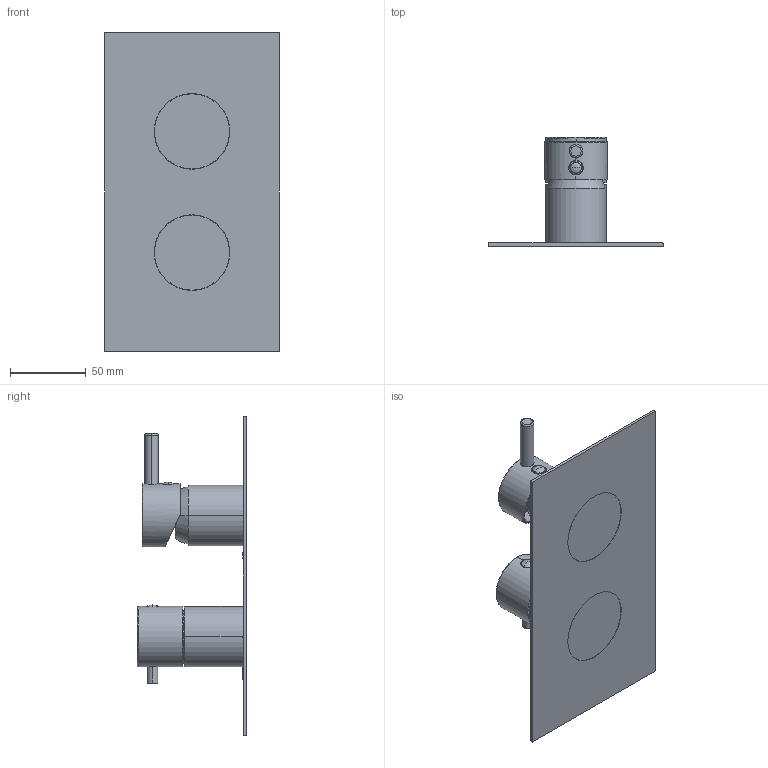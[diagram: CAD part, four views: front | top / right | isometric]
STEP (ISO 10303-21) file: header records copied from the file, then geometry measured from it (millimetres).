
FILE_DESCRIPTION((''),'2;1');
FILE_NAME('12523V2_SW0001','2020-09-23T13:27:16',('volponeff'),(''),'CREO PARAMETRIC BY PTC INC, 2018100','CREO PARAMETRIC BY PTC INC, 2018100','');
FILE_SCHEMA(('CONFIG_CONTROL_DESIGN'));
Length unit declared in the file: millimetre
Products named in the file (1): 12523V2_SW0001
Bounding box: 115 x 72.2 x 210 mm (x, y, z)
Volume: 167224.2 mm3; surface area: 82671.3 mm2
Topology: 2 solids, 4 shells, 319 faces, 800 edges, 517 vertices
Faces by surface type: plane 162, extrusion 54, cylinder 52, cone 23, torus 22, sphere 4, bspline 2
Entity records: 10520 total; most frequent: CARTESIAN_POINT 2969, ORIENTED_EDGE 1592, DIRECTION 1427, EDGE_CURVE 796, VECTOR 523, VERTEX_POINT 517, LINE 469, AXIS2_PLACEMENT_3D 452
